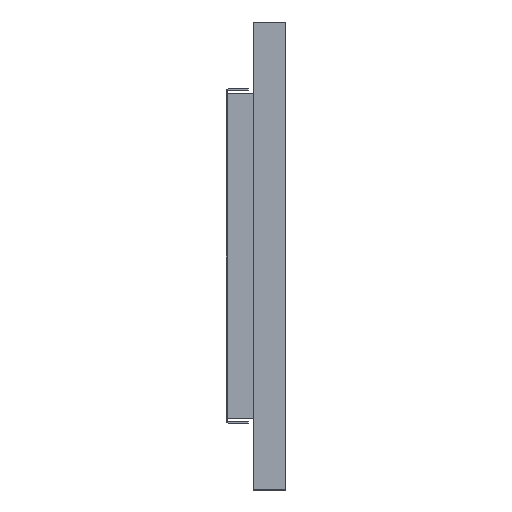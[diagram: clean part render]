
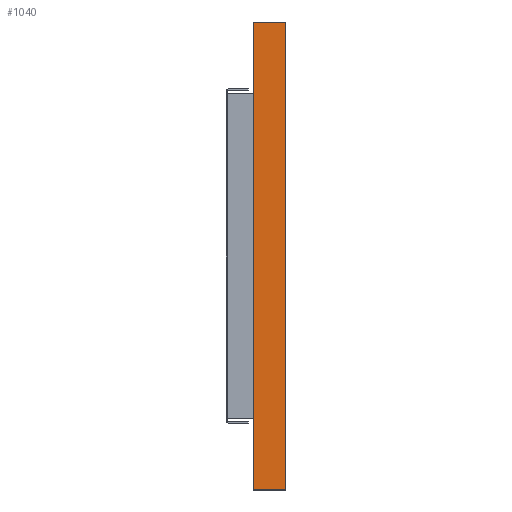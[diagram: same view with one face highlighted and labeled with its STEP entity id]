
A CAD part, left-side view. The second image highlights one B-rep face of the part: STEP entity #1040.
In plain terms, the highlighted planar face has unit normal (-1, 0, 0).
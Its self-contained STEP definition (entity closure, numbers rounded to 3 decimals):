
#257 = VECTOR ( 'NONE', #3011, 1000. ) ;
#298 = LINE ( 'NONE', #3118, #1653 ) ;
#321 = VECTOR ( 'NONE', #682, 1000. ) ;
#347 = ORIENTED_EDGE ( 'NONE', *, *, #838, .T. ) ;
#410 = FACE_OUTER_BOUND ( 'NONE', #1086, .T. ) ;
#464 = CARTESIAN_POINT ( 'NONE',  ( -258.592, -7.233, -36. ) ) ;
#682 = DIRECTION ( 'NONE',  ( 0., 0., 1. ) ) ;
#686 = CARTESIAN_POINT ( 'NONE',  ( -258.592, -7.233, 36. ) ) ;
#717 = VERTEX_POINT ( 'NONE', #2694 ) ;
#743 = CARTESIAN_POINT ( 'NONE',  ( -258.592, -7.233, -36. ) ) ;
#838 = EDGE_CURVE ( 'NONE', #2857, #717, #2490, .T. ) ;
#875 = CARTESIAN_POINT ( 'NONE',  ( -258.592, -12.233, -36. ) ) ;
#900 = CARTESIAN_POINT ( 'NONE',  ( -258.592, -7.233, 36. ) ) ;
#939 = CARTESIAN_POINT ( 'NONE',  ( -258.592, -12.233, -36. ) ) ;
#1040 = ADVANCED_FACE ( 'NONE', ( #410 ), #3026, .F. ) ;
#1048 = ORIENTED_EDGE ( 'NONE', *, *, #1389, .F. ) ;
#1067 = VECTOR ( 'NONE', #1461, 1000. ) ;
#1086 = EDGE_LOOP ( 'NONE', ( #347, #1048, #2354, #3078 ) ) ;
#1180 = DIRECTION ( 'NONE',  ( 1., 0., 0. ) ) ;
#1389 = EDGE_CURVE ( 'NONE', #2137, #717, #2649, .T. ) ;
#1439 = AXIS2_PLACEMENT_3D ( 'NONE', #2241, #1180, #2210 ) ;
#1461 = DIRECTION ( 'NONE',  ( 0., -1., 0. ) ) ;
#1653 = VECTOR ( 'NONE', #2830, 1000. ) ;
#2137 = VERTEX_POINT ( 'NONE', #900 ) ;
#2210 = DIRECTION ( 'NONE',  ( 0., 0., -1. ) ) ;
#2231 = EDGE_CURVE ( 'NONE', #3205, #2857, #3057, .T. ) ;
#2241 = CARTESIAN_POINT ( 'NONE',  ( -258.592, -7.233, -36. ) ) ;
#2354 = ORIENTED_EDGE ( 'NONE', *, *, #2692, .F. ) ;
#2490 = LINE ( 'NONE', #939, #321 ) ;
#2649 = LINE ( 'NONE', #686, #1067 ) ;
#2692 = EDGE_CURVE ( 'NONE', #3205, #2137, #298, .T. ) ;
#2694 = CARTESIAN_POINT ( 'NONE',  ( -258.592, -12.233, 36. ) ) ;
#2830 = DIRECTION ( 'NONE',  ( 0., 0., 1. ) ) ;
#2857 = VERTEX_POINT ( 'NONE', #875 ) ;
#3011 = DIRECTION ( 'NONE',  ( 0., -1., 0. ) ) ;
#3026 = PLANE ( 'NONE',  #1439 ) ;
#3057 = LINE ( 'NONE', #743, #257 ) ;
#3078 = ORIENTED_EDGE ( 'NONE', *, *, #2231, .T. ) ;
#3118 = CARTESIAN_POINT ( 'NONE',  ( -258.592, -7.233, -36. ) ) ;
#3205 = VERTEX_POINT ( 'NONE', #464 ) ;
